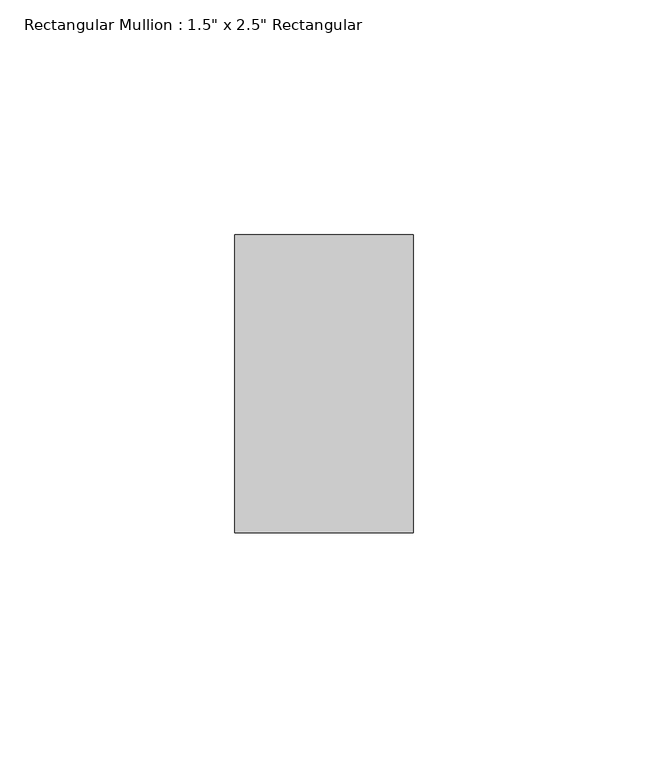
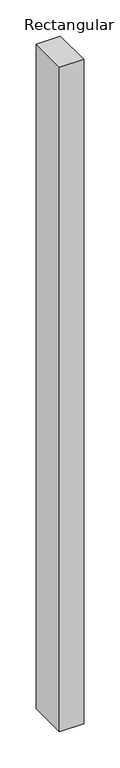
"""IFC4 building model written with IfcOpenShell, lengths in millimetres: member geometry."""

import ifcopenshell
import ifcopenshell.guid

model = None  # the IFC model being written
_history = None  # IfcOwnerHistory: only IFC2X3 demands one
_inside = {}  # id of a spatial element -> (the spatial element, [elements in it])
_under = {}  # id of a project, library or spatial element -> (it, [spatial elements below it])
_declared = {}  # id of a project -> (the project, [libraries it declares])
_typed = {}  # id of a type object -> (the type object, [elements of that type])
_made_of = {}  # id of a material, layer set ... -> (it, [elements and type objects made of it])


def new_model(schema):
    """Start an empty IFC model of exactly this schema.

    Asked for "IFC4X3", IfcOpenShell would pick the latest addendum, in which some entities
    have other attributes; the version numbers below select the first issue.
    IFC2X3 requires an IfcOwnerHistory on every rooted entity: one is made here for all.
    """
    global model, _history
    if schema == "IFC4X3":
        model = ifcopenshell.file(schema_version=(4, 3, 0, 0))
    else:
        model = ifcopenshell.file(schema=schema)
    _inside.clear()
    _under.clear()
    _declared.clear()
    _typed.clear()
    _made_of.clear()
    _history = None
    if model.schema == "IFC2X3":
        org = make("IfcOrganization", Name="unknown")
        user = make(
            "IfcPersonAndOrganization",
            ThePerson=make("IfcPerson", FamilyName="unknown"),
            TheOrganization=org,
        )
        app = make(
            "IfcApplication",
            ApplicationDeveloper=org,
            Version="unknown",
            ApplicationFullName="unknown",
            ApplicationIdentifier="unknown",
        )
        _history = make(
            "IfcOwnerHistory",
            OwningUser=user,
            OwningApplication=app,
            ChangeAction="ADDED",
            CreationDate=0,
        )
    return model


def make(cls, **values):
    """One entity of the class cls with the attributes given. An attribute that is None is left unset."""
    return model.create_entity(
        cls, **{name: value for name, value in values.items() if value is not None}
    )


def rooted(cls, **values):
    """An entity with a GlobalId (a new one), such as an element, a storey or a relation."""
    return make(cls, GlobalId=ifcopenshell.guid.new(), OwnerHistory=_history, **values)


def si_unit(unit_type, name, prefix=None):
    """IfcSIUnit, for example si_unit("LENGTHUNIT", "METRE", prefix="MILLI")."""
    return make("IfcSIUnit", UnitType=unit_type, Prefix=prefix, Name=name)


def assignment(units):
    """IfcUnitAssignment: the units of a project."""
    return None if units is None else make("IfcUnitAssignment", Units=units)


def point(xyz):
    """IfcCartesianPoint."""
    return None if xyz is None else make("IfcCartesianPoint", Coordinates=xyz)


def direction(xyz):
    """IfcDirection."""
    return None if xyz is None else make("IfcDirection", DirectionRatios=xyz)


def frame(location, z_axis=None, x_axis=None):
    """IfcAxis2Placement3D, a coordinate frame: its origin and axes. An axis left out is left unset."""
    return make(
        "IfcAxis2Placement3D",
        Location=point(location),
        Axis=direction(z_axis),
        RefDirection=direction(x_axis),
    )


def origin():
    """The frame at (0, 0, 0) with its axes left unset."""
    return frame((0.0, 0.0, 0.0))


def place(relative_to, where):
    """IfcLocalPlacement: puts the frame where relative to a parent placement (None: the world)."""
    return make(
        "IfcLocalPlacement", PlacementRelTo=relative_to, RelativePlacement=where
    )


def context(
    kind, dimensions, precision=None, world=None, true_north=None, identifier=None
):
    """IfcGeometricRepresentationContext, for example the 3D "Model" context."""
    return make(
        "IfcGeometricRepresentationContext",
        ContextIdentifier=identifier,
        ContextType=kind,
        CoordinateSpaceDimension=dimensions,
        Precision=precision,
        WorldCoordinateSystem=world,
        TrueNorth=true_north,
    )


def project(units=None, contexts=None):
    """IfcProject with its units and contexts."""
    return rooted(
        "IfcProject",
        Name="project",
        RepresentationContexts=contexts,
        UnitsInContext=assignment(units),
    )


def spatial(cls, under=None, at=None, **own):
    """A site, building, storey or space (cls), placed at a placement, below another one or the project."""
    s = rooted(cls, ObjectPlacement=at, **own)
    if under is not None:
        _under.setdefault(under.id(), (under, []))[1].append(s)
    return s


def polyline(points):
    """IfcPolyline through the points."""
    return make("IfcPolyline", Points=[point(p) for p in points])


def outline(outer, holes=None, kind="AREA"):
    """IfcArbitraryClosedProfileDef: a profile drawn as a closed curve; with holes, ...WithVoids."""
    if holes is None:
        return make("IfcArbitraryClosedProfileDef", ProfileType=kind, OuterCurve=outer)
    return make(
        "IfcArbitraryProfileDefWithVoids",
        ProfileType=kind,
        OuterCurve=outer,
        InnerCurves=holes,
    )


def extrude(swept, where, along, depth):
    """IfcExtrudedAreaSolid: the profile swept, set in the frame where, extruded along a direction by depth."""
    return make(
        "IfcExtrudedAreaSolid",
        SweptArea=swept,
        Position=where,
        ExtrudedDirection=direction(along),
        Depth=depth,
    )


def shape(context_of_items, identifier, shape_type, items):
    """IfcShapeRepresentation: the items that make up one representation, for example the "Body"."""
    return make(
        "IfcShapeRepresentation",
        ContextOfItems=context_of_items,
        RepresentationIdentifier=identifier,
        RepresentationType=shape_type,
        Items=items,
    )


def source(mapping_origin, context_of_items, identifier, shape_type, items):
    """IfcRepresentationMap: a shape defined once, which mapped items show again and again."""
    return make(
        "IfcRepresentationMap",
        MappingOrigin=mapping_origin,
        MappedRepresentation=shape(context_of_items, identifier, shape_type, items),
    )


def transform(
    local_origin,
    x_axis=None,
    y_axis=None,
    z_axis=None,
    scale=None,
    scale2=None,
    scale3=None,
    uniform=True,
):
    """IfcCartesianTransformationOperator3D, or its non-uniform kind. x_axis, y_axis, z_axis: its Axis1, 2, 3."""
    if uniform:
        return make(
            "IfcCartesianTransformationOperator3D",
            Axis1=direction(x_axis),
            Axis2=direction(y_axis),
            LocalOrigin=point(local_origin),
            Scale=scale,
            Axis3=direction(z_axis),
        )
    return make(
        "IfcCartesianTransformationOperator3DnonUniform",
        Axis1=direction(x_axis),
        Axis2=direction(y_axis),
        LocalOrigin=point(local_origin),
        Scale=scale,
        Axis3=direction(z_axis),
        Scale2=scale2,
        Scale3=scale3,
    )


def mapped(mapping_source, mapping_target):
    """IfcMappedItem: shows the shape of a source again, moved by a transform."""
    return make(
        "IfcMappedItem", MappingSource=mapping_source, MappingTarget=mapping_target
    )


def made_of(thing, what):
    """Note that an element or type object is made of a material, layer set ...; save() writes the relation."""
    if what is not None:
        _made_of.setdefault(what.id(), (what, []))[1].append(thing)
    return thing


def element(
    cls,
    number,
    at=None,
    inside=None,
    cuts=None,
    type_object=None,
    material=None,
    context=None,
    identifier="Body",
    shape_type=None,
    held_by="IfcProductDefinitionShape",
    body=None,
    shapes=None,
    **own,
):
    """One element of the class cls, such as IfcWall. Its Tag is "e" and its number.

    at: its placement. inside: the storey or other place that contains it. cuts: it is an
    opening in that element (IfcRelVoidsElement). A single representation is given by context,
    identifier, shape_type and body (its items); several are given by shapes. held_by: the class
    of the entity that holds the representations. save() writes the other relations.
    """
    e = rooted(cls, Tag="e%d" % number, ObjectPlacement=at, **own)
    if body is not None:
        shapes = [shape(context, identifier, shape_type, body)]
    if shapes is not None:
        e.Representation = make(held_by, Representations=shapes)
    if inside is not None:
        _inside.setdefault(inside.id(), (inside, []))[1].append(e)
    if cuts is not None:
        rooted(
            "IfcRelVoidsElement", RelatingBuildingElement=cuts, RelatedOpeningElement=e
        )
    if type_object is not None:
        _typed.setdefault(type_object.id(), (type_object, []))[1].append(e)
    return made_of(e, material)


def aggregate(whole, parts):
    """IfcRelAggregates: a whole, such as a stair, and the parts it consists of."""
    return rooted("IfcRelAggregates", RelatingObject=whole, RelatedObjects=parts)


def save(model, path):
    """Write the relations noted so far, then the file.

    IfcRelAggregates (storeys below a building ...), IfcRelContainedInSpatialStructure (elements
    in a storey), IfcRelDefinesByType, IfcRelAssociatesMaterial and IfcRelDeclares: one each for
    every whole, place, type object, material and project.
    """
    for whole, parts in _under.values():
        aggregate(whole, parts)
    for where, things in _inside.values():
        rooted(
            "IfcRelContainedInSpatialStructure",
            RelatedElements=things,
            RelatingStructure=where,
        )
    for kind, things in _typed.values():
        rooted("IfcRelDefinesByType", RelatedObjects=things, RelatingType=kind)
    for what, things in _made_of.values():
        rooted("IfcRelAssociatesMaterial", RelatedObjects=things, RelatingMaterial=what)
    for by, libraries in _declared.values():
        rooted("IfcRelDeclares", RelatingContext=by, RelatedDefinitions=libraries)
    model.write(path)


def member_2a473b70(model_context):
    return source(origin(), model_context, "Body", "SweptSolid", [
        extrude(outline(polyline([(19.05, 31.75), (19.05, -31.75), (-19.05, -31.75), (-19.05, 31.75), (19.05, 31.75)])), frame((0.0, 0.0, -1114.4249997), z_axis=(0.0, 0.0, 1.0), x_axis=(1.0, 0.0, 0.0)), (0.0, 0.0, 1.0), 1114.4249997),
    ])


if __name__ == "__main__":
    model = new_model("IFC4")
    model_context = context("Model", 3, world=origin())
    ifc_project = project(units=[si_unit("LENGTHUNIT", "METRE", prefix="MILLI")], contexts=[model_context])
    site = spatial("IfcSite", under=ifc_project)
    building = spatial("IfcBuilding", under=site)
    placement = place(None, origin())
    member_shape = member_2a473b70(model_context)
    element("IfcMember", 1, ObjectType="Rectangular Mullion : 1.5\" x 2.5\" Rectangular", at=placement, inside=building, context=model_context, shape_type="MappedRepresentation", body=[
        mapped(member_shape, transform((0.0, 0.0, 0.0), x_axis=(1.0, 0.0, 0.0), y_axis=(0.0, 1.0, 0.0), z_axis=(0.0, 0.0, 1.0))),
    ])
    save(model, "model.ifc")
